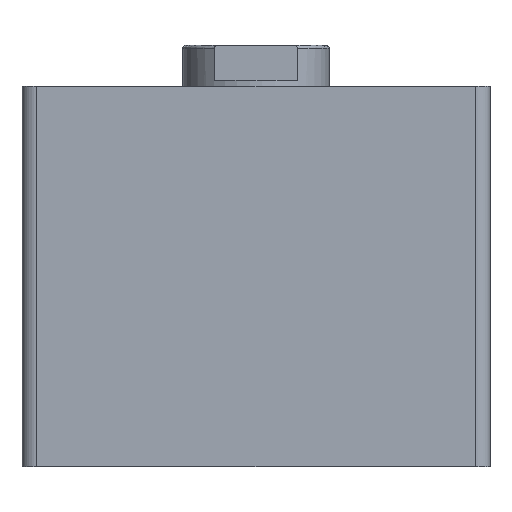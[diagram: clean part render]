
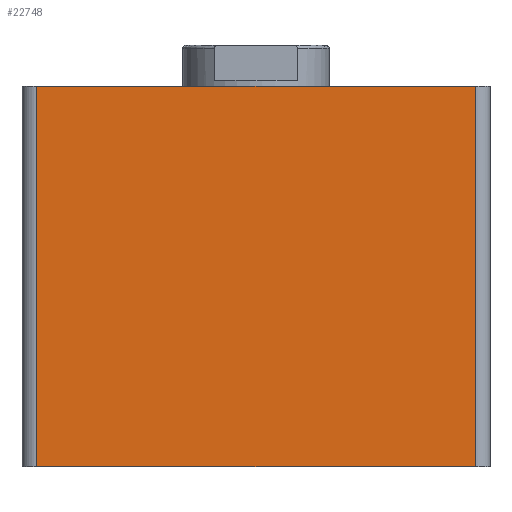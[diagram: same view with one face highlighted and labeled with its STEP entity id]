
A CAD part, front view. The second image highlights one B-rep face of the part: STEP entity #22748.
In plain terms, the highlighted planar face has unit normal (0, -1, 0).
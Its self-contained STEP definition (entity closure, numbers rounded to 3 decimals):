
#1943 = AXIS2_PLACEMENT_3D ( 'NONE', #13554, #11498, #13199 ) ;
#2040 = CARTESIAN_POINT ( 'NONE',  ( 155., 0., 130. ) ) ;
#2202 = DIRECTION ( 'NONE',  ( 0., 0., -1. ) ) ;
#2283 = DIRECTION ( 'NONE',  ( 0., 0., 1. ) ) ;
#2373 = VERTEX_POINT ( 'NONE', #14745 ) ;
#2656 = ORIENTED_EDGE ( 'NONE', *, *, #16344, .T. ) ;
#4001 = LINE ( 'NONE', #2040, #4228 ) ;
#4039 = FACE_OUTER_BOUND ( 'NONE', #6080, .T. ) ;
#4078 = EDGE_CURVE ( 'NONE', #10154, #9163, #16373, .T. ) ;
#4228 = VECTOR ( 'NONE', #2283, 1000. ) ;
#4869 = CARTESIAN_POINT ( 'NONE',  ( 5., 0., 130. ) ) ;
#6080 = EDGE_LOOP ( 'NONE', ( #15614, #20768, #2656, #7203 ) ) ;
#7203 = ORIENTED_EDGE ( 'NONE', *, *, #19414, .T. ) ;
#7708 = CARTESIAN_POINT ( 'NONE',  ( 5., 0., 130. ) ) ;
#9163 = VERTEX_POINT ( 'NONE', #15158 ) ;
#10154 = VERTEX_POINT ( 'NONE', #4869 ) ;
#10196 = CARTESIAN_POINT ( 'NONE',  ( 155., 0., 0. ) ) ;
#10631 = EDGE_CURVE ( 'NONE', #10154, #2373, #15017, .T. ) ;
#11498 = DIRECTION ( 'NONE',  ( 0., 1., 0. ) ) ;
#12145 = CARTESIAN_POINT ( 'NONE',  ( 0., 0., 130. ) ) ;
#13199 = DIRECTION ( 'NONE',  ( 0., 0., 1. ) ) ;
#13449 = LINE ( 'NONE', #19528, #20775 ) ;
#13554 = CARTESIAN_POINT ( 'NONE',  ( 0., 0., 130. ) ) ;
#13576 = VECTOR ( 'NONE', #2202, 1000. ) ;
#14745 = CARTESIAN_POINT ( 'NONE',  ( 5., 0., 0. ) ) ;
#14889 = PLANE ( 'NONE',  #1943 ) ;
#14934 = VERTEX_POINT ( 'NONE', #10196 ) ;
#15017 = LINE ( 'NONE', #7708, #13576 ) ;
#15158 = CARTESIAN_POINT ( 'NONE',  ( 155., 0., 130. ) ) ;
#15388 = DIRECTION ( 'NONE',  ( 1., 0., 0. ) ) ;
#15602 = VECTOR ( 'NONE', #18091, 1000. ) ;
#15614 = ORIENTED_EDGE ( 'NONE', *, *, #4078, .F. ) ;
#16344 = EDGE_CURVE ( 'NONE', #2373, #14934, #13449, .T. ) ;
#16373 = LINE ( 'NONE', #12145, #15602 ) ;
#18091 = DIRECTION ( 'NONE',  ( 1., 0., 0. ) ) ;
#19414 = EDGE_CURVE ( 'NONE', #14934, #9163, #4001, .T. ) ;
#19528 = CARTESIAN_POINT ( 'NONE',  ( 0., 0., 0. ) ) ;
#20768 = ORIENTED_EDGE ( 'NONE', *, *, #10631, .T. ) ;
#20775 = VECTOR ( 'NONE', #15388, 1000. ) ;
#22748 = ADVANCED_FACE ( 'NONE', ( #4039 ), #14889, .F. ) ;
